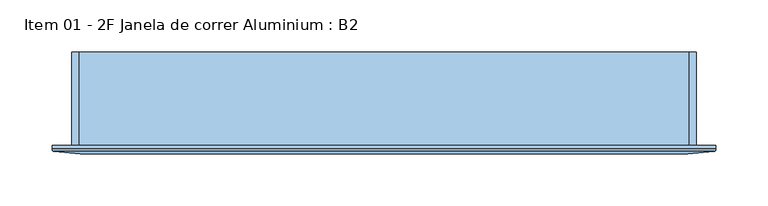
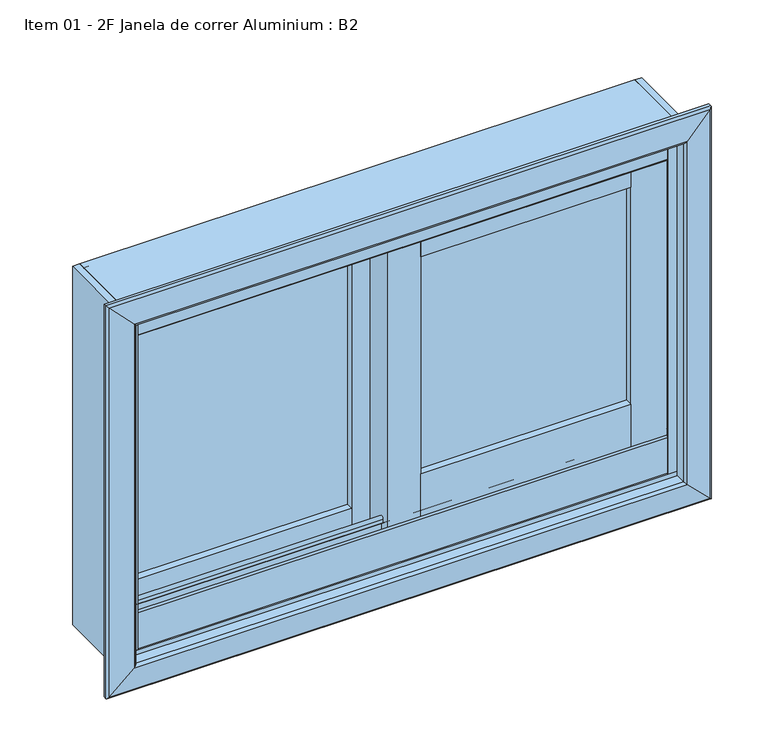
"""IFC4 building model written with IfcOpenShell, lengths in millimetres: window geometry, Item 01 - 2F Janela de correr Aluminium : B2."""

from ifc_helpers import new_model, si_unit, frame, origin, place, context, project, spatial, polyline, circle_curve, ellipse_curve, outline, extrude, source, transform, mapped, element, save
from ifc_brep_helpers import plane_surface, cylinder_surface, revolved_surface, advanced_brep


def item_01_2f_janela_de_correr_aluminium_b2_8b62c7b2(model_context):
    return source(origin(), model_context, "Body", "SolidModel", [
        extrude(outline(polyline([(-27.3998339, -10.3), (-27.3998339, -14.3), (-254.750983, -14.3), (-254.750983, -10.3), (-27.3998339, -10.3)])), frame((0.0, 0.0, 857.0), z_axis=(0.0, 0.0, 1.0), x_axis=(1.0, 0.0, 0.0)), (0.0, 0.0, 1.0), 280.5),
        extrude(outline(polyline([(27.2998339, -45.9), (27.2998339, -41.9), (248.868646, -41.9), (248.868646, -45.9), (27.2998339, -45.9)])), frame((0.0, 0.0, 895.5), z_axis=(0.0, 0.0, 1.0), x_axis=(1.0, 0.0, 0.0)), (0.0, 0.0, 1.0), 242.0),
        extrude(outline(polyline([(248.868646, -33.9), (248.868646, -53.9), (27.2998339, -53.9), (27.2998339, -33.9), (248.868646, -33.9)])), frame((0.0, 0.0, 847.9996573), z_axis=(0.0, 0.0, 1.0), x_axis=(1.0, 0.0, 0.0)), (0.0, 0.0, 1.0), 47.5003427),
        extrude(outline(polyline([(248.868646, -33.9), (248.868646, -53.9), (27.2998339, -53.9), (27.2998339, -33.9), (248.868646, -33.9)])), frame((0.0, 0.0, 1137.4996573), z_axis=(0.0, 0.0, 1.0), x_axis=(1.0, 0.0, 0.0)), (0.0, 0.0, 1.0), 34.5),
        extrude(outline(polyline([(-27.3998339, -2.3), (-27.3998339, -22.3), (-254.750983, -22.3), (-254.750983, -2.3), (-27.3998339, -2.3)])), frame((0.0, 0.0, 821.0), z_axis=(0.0, 0.0, 1.0), x_axis=(1.0, 0.0, 0.0)), (0.0, 0.0, 1.0), 36.0),
        extrude(outline(polyline([(-27.3998339, -2.3), (-27.3998339, -22.3), (-254.750983, -22.3), (-254.750983, -2.3), (-27.3998339, -2.3)])), frame((0.0, 0.0, 1137.5), z_axis=(0.0, 0.0, 1.0), x_axis=(1.0, 0.0, 0.0)), (0.0, 0.0, 1.0), 34.5),
        extrude(outline(polyline([(-254.750983, -22.3), (-293.0, -22.3), (-293.0, -2.3), (-254.750983, -2.3), (-254.750983, -22.3)])), frame((0.0, 0.0, 821.0), z_axis=(0.0, 0.0, 1.0), x_axis=(1.0, 0.0, 0.0)), (0.0, 0.0, 1.0), 351.0),
        extrude(outline(polyline([(-27.3998339, -22.3), (-27.3998339, -2.3), (7.6001661, -2.3), (7.6001661, -33.9), (27.2998339, -33.9), (27.2998339, -53.9), (-7.6001661, -53.9), (-7.6001661, -22.3), (-27.3998339, -22.3)])), frame((0.0, 0.0, 821.0), z_axis=(0.0, 0.0, 1.0), x_axis=(1.0, 0.0, 0.0)), (0.0, 0.0, 1.0), 351.0),
        extrude(outline(polyline([(293.0, -53.9), (248.868646, -53.9), (248.868646, -33.9), (293.0, -33.9), (293.0, -53.9)])), frame((0.0, 0.0, 821.0), z_axis=(0.0, 0.0, 1.0), x_axis=(1.0, 0.0, 0.0)), (0.0, 0.0, 1.0), 351.0),
        advanced_brep(
        [(-292.5998339, 8.5620965, 810.2470077), (-292.5998339, 8.5620965, 801.4000436), (-292.5998339, 13.600001, 801.4000436), (-292.5998339, 13.600001, 807.4000364), (-292.5998339, 14.9999993, 807.4000364), (-292.5998339, 15.0, 800.0), (-292.5998339, -75.0, 800.0), (-292.5998339, -75.0, 807.4000364), (-292.5998339, -73.6000017, 807.4000364), (-292.5998339, -73.6000017, 801.3999983), (-292.5998339, -68.6000077, 801.3999983), (-292.5998339, -68.6000077, 815.5000406), (-292.5998339, -66.9001002, 815.5000406), (-292.5998339, -66.9002002, 855.4959852), (-292.5998339, -63.9002108, 855.4999745), (-292.5998339, -63.9002039, 852.9999952), (-292.5998339, -65.5001025, 852.0762974), (-292.5998339, -65.4999102, 840.5017467), (-292.5998339, -64.5522917, 839.4937615), (-292.5998339, -42.5000392, 838.337999), (-292.5998339, -42.5000392, 852.496362), (-292.5998339, -44.7000484, 852.496362), (-292.5998339, -44.7000484, 848.6999865), (-292.5998339, -46.1007067, 848.6999865), (-292.5998339, -46.1007067, 852.4947997), (-292.5998339, -41.099933, 852.4947997), (-292.5998339, -41.099933, 838.2646991), (-292.5998339, -39.464205, 838.1789418), (-292.5998339, -35.731283, 834.861102), (-292.5998339, -32.3590937, 815.7367048), (-292.5998339, -29.9346709, 813.5917613), (-292.5998339, -14.4999651, 812.7828298), (-292.5998339, -14.4999651, 825.4891381), (-292.5998339, -9.4999947, 825.4999956), (-292.5998339, -9.4999711, 821.7000191), (-292.5998339, -10.8999694, 821.7000191), (-292.5998339, -10.8999694, 825.4963945), (-292.5998339, -13.0999825, 825.4963945), (-292.5998339, -13.0999825, 812.7095299), (-292.5998339, 7.2297593, 811.6448774), (292.5998339, 8.5620965, 810.2470077), (292.5998339, 8.5620965, 801.4000436), (292.5998339, 13.600001, 801.4000436), (292.5998339, 13.600001, 807.4000364), (292.5998339, 14.9999993, 807.4000364), (292.5998339, 15.0, 800.0), (292.5998339, -75.0, 800.0), (292.5998339, -75.0, 807.4000364), (292.5998339, -73.6000017, 807.4000364), (292.5998339, -73.6000017, 801.3999983), (292.5998339, -68.6000077, 801.3999983), (292.5998339, -68.6000077, 815.5000406), (292.5998339, -66.9001002, 815.5000406), (292.5998339, -66.9002002, 855.4959852), (292.5998339, -63.9002108, 855.4999745), (292.5998339, -63.9002039, 852.9999952), (292.5998339, -65.5001025, 852.0762974), (292.5998339, -65.4999102, 840.5017467), (292.5998339, -64.5522917, 839.4937615), (292.5998339, -42.5000392, 838.337999), (292.5998339, -42.5000392, 852.496362), (292.5998339, -44.7000484, 852.496362), (292.5998339, -44.7000484, 848.6999865), (292.5998339, -46.1007067, 848.6999865), (292.5998339, -46.1007067, 852.4947997), (292.5998339, -41.099933, 852.4947997), (292.5998339, -41.099933, 838.2646991), (292.5998339, -39.464205, 838.1789418), (292.5998339, -35.731283, 834.861102), (292.5998339, -32.3590937, 815.7367048), (292.5998339, -29.9346709, 813.5917613), (292.5998339, -14.4999651, 812.7828298), (292.5998339, -14.4999651, 825.4891381), (292.5998339, -9.4999947, 825.4999956), (292.5998339, -9.4999711, 821.7000191), (292.5998339, -10.8999694, 821.7000191), (292.5998339, -10.8999694, 825.4963945), (292.5998339, -13.0999825, 825.4963945), (292.5998339, -13.0999825, 812.7095299), (292.5998339, 7.2297593, 811.6448774)],
        [
            (0, 1),
            (1, 2),
            (2, 3),
            (3, 4),
            (4, 5),
            (5, 6),
            (6, 7),
            (7, 8),
            (8, 9),
            (9, 10),
            (10, 11),
            (11, 12),
            (12, 13),
            (13, 14, circle_curve(frame((-292.5998339, -65.4002082, 855.4999743), z_axis=(-1.0, 0.0, 0.0), x_axis=(0.0, 0.0, 1.0)), 1.4999974)),
            (14, 15),
            (15, 16),
            (16, 17),
            (17, 18, circle_curve(frame((-292.5998339, -64.4999552, 840.4923898), z_axis=(1.0, 0.0, 0.0), x_axis=(0.0, 0.0, 1.0)), 0.9999988)),
            (18, 19),
            (19, 20),
            (20, 21, circle_curve(frame((-292.5998339, -43.6000438, 852.496362), z_axis=(1.0, 0.0, 0.0), x_axis=(0.0, 0.0, 1.0)), 1.1000046)),
            (21, 22),
            (22, 23, circle_curve(frame((-292.5998339, -45.4003775, 848.6999865), z_axis=(-1.0, 0.0, 0.0), x_axis=(0.0, 0.0, 1.0)), 0.7003292)),
            (23, 24),
            (24, 25, circle_curve(frame((-292.5998339, -43.6003199, 852.4947997), z_axis=(-1.0, 0.0, 0.0), x_axis=(0.0, 0.0, 1.0)), 2.5003869)),
            (25, 26),
            (26, 27),
            (27, 28, circle_curve(frame((-292.5998339, -39.6736275, 834.1844326), z_axis=(-1.0, 0.0, 0.0), x_axis=(0.0, 0.0, 1.0)), 3.9999952)),
            (28, 29),
            (29, 30, circle_curve(frame((-292.5998339, -29.7985976, 816.188195), z_axis=(1.0, 0.0, 0.0), x_axis=(0.0, 0.0, 1.0)), 2.5999969)),
            (30, 31),
            (31, 32),
            (32, 33, circle_curve(frame((-292.5998339, -11.9999917, 825.4999955), z_axis=(-1.0, 0.0, 0.0), x_axis=(0.0, 0.0, 1.0)), 2.499997)),
            (33, 34),
            (34, 35, circle_curve(frame((-292.5998339, -10.1999703, 821.7000191), z_axis=(-1.0, 0.0, 0.0), x_axis=(0.0, 0.0, 1.0)), 0.6999992)),
            (35, 36),
            (36, 37, circle_curve(frame((-292.5998339, -11.9999759, 825.4963945), z_axis=(1.0, 0.0, 0.0), x_axis=(0.0, 0.0, 1.0)), 1.1000065)),
            (37, 38),
            (38, 39),
            (39, 0, circle_curve(frame((-292.5998339, 7.1626152, 810.2470077), z_axis=(-1.0, 0.0, 0.0), x_axis=(0.0, 0.0, 1.0)), 1.3994814)),
            (0, 40),
            (40, 41),
            (41, 1),
            (41, 42),
            (42, 2),
            (42, 43),
            (43, 3),
            (43, 44),
            (44, 4),
            (44, 45),
            (45, 5),
            (45, 46),
            (46, 6),
            (46, 47),
            (47, 7),
            (47, 48),
            (48, 8),
            (48, 49),
            (49, 9),
            (49, 50),
            (50, 10),
            (50, 51),
            (51, 11),
            (51, 52),
            (52, 12),
            (52, 53),
            (53, 13),
            (53, 54, circle_curve(frame((292.5998339, -65.4002082, 855.4999743), z_axis=(-1.0, 0.0, 0.0), x_axis=(0.0, 0.0, 1.0)), 1.4999974)),
            (54, 14),
            (54, 55),
            (55, 15),
            (55, 56),
            (56, 16),
            (56, 57),
            (57, 17),
            (57, 58, circle_curve(frame((292.5998339, -64.4999552, 840.4923898), z_axis=(1.0, 0.0, 0.0), x_axis=(0.0, 0.0, 1.0)), 0.9999988)),
            (58, 18),
            (58, 59),
            (59, 19),
            (59, 60),
            (60, 20),
            (60, 61, circle_curve(frame((292.5998339, -43.6000438, 852.496362), z_axis=(1.0, 0.0, 0.0), x_axis=(0.0, 0.0, 1.0)), 1.1000046)),
            (61, 21),
            (61, 62),
            (62, 22),
            (62, 63, circle_curve(frame((292.5998339, -45.4003775, 848.6999865), z_axis=(-1.0, 0.0, 0.0), x_axis=(0.0, 0.0, 1.0)), 0.7003292)),
            (63, 23),
            (63, 64),
            (64, 24),
            (64, 65, circle_curve(frame((292.5998339, -43.6003199, 852.4947997), z_axis=(-1.0, 0.0, 0.0), x_axis=(0.0, 0.0, 1.0)), 2.5003869)),
            (65, 25),
            (65, 66),
            (66, 26),
            (66, 67),
            (67, 27),
            (67, 68, circle_curve(frame((292.5998339, -39.6736275, 834.1844326), z_axis=(-1.0, 0.0, 0.0), x_axis=(0.0, 0.0, 1.0)), 3.9999952)),
            (68, 28),
            (68, 69),
            (69, 29),
            (69, 70, circle_curve(frame((292.5998339, -29.7985976, 816.188195), z_axis=(1.0, 0.0, 0.0), x_axis=(0.0, 0.0, 1.0)), 2.5999969)),
            (70, 30),
            (70, 71),
            (71, 31),
            (71, 72),
            (72, 32),
            (72, 73, circle_curve(frame((292.5998339, -11.9999917, 825.4999955), z_axis=(-1.0, 0.0, 0.0), x_axis=(0.0, 0.0, 1.0)), 2.499997)),
            (73, 33),
            (73, 74),
            (74, 34),
            (74, 75, circle_curve(frame((292.5998339, -10.1999703, 821.7000191), z_axis=(-1.0, 0.0, 0.0), x_axis=(0.0, 0.0, 1.0)), 0.6999992)),
            (75, 35),
            (75, 76),
            (76, 36),
            (76, 77, circle_curve(frame((292.5998339, -11.9999759, 825.4963945), z_axis=(1.0, 0.0, 0.0), x_axis=(0.0, 0.0, 1.0)), 1.1000065)),
            (77, 37),
            (77, 78),
            (78, 38),
            (78, 79),
            (79, 39),
            (79, 40, circle_curve(frame((292.5998339, 7.1626152, 810.2470077), z_axis=(-1.0, 0.0, 0.0), x_axis=(0.0, 0.0, 1.0)), 1.3994814)),
        ],
        [
            plane_surface(frame((-292.5998339, -75.0, 1200.0), z_axis=(-1.0, 0.0, 0.0), x_axis=(0.0, -1.0, 0.0))),
            plane_surface(frame((-292.5998339, 8.5620965, 810.2470077), z_axis=(0.0, 1.0, 0.0), x_axis=(1.0, 0.0, 0.0))),
            plane_surface(frame((-292.5998339, 8.5620965, 801.4000436), z_axis=(0.0, 0.0, 1.0), x_axis=(1.0, 0.0, 0.0))),
            plane_surface(frame((-292.5998339, 13.600001, 801.4000436), z_axis=(0.0, -1.0, 0.0), x_axis=(1.0, 0.0, 0.0))),
            plane_surface(frame((-292.5998339, 13.600001, 807.4000364), z_axis=(0.0, 0.0, 1.0), x_axis=(1.0, 0.0, 0.0))),
            plane_surface(frame((-292.5998339, 14.9999993, 807.4000364), z_axis=(0.0, 0.999999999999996, 9.01305508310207e-08), x_axis=(1.0, 0.0, 0.0))),
            plane_surface(frame((-292.5998339, 15.0, 800.0), z_axis=(0.0, 0.0, -1.0), x_axis=(1.0, 0.0, 0.0))),
            plane_surface(frame((-292.5998339, -75.0, 800.0), z_axis=(0.0, -1.0, 0.0), x_axis=(1.0, 0.0, 0.0))),
            plane_surface(frame((-292.5998339, -75.0, 807.4000364), z_axis=(0.0, 0.0, 1.0), x_axis=(1.0, 0.0, 0.0))),
            plane_surface(frame((-292.5998339, -73.6000017, 807.4000364), z_axis=(0.0, 1.0, 0.0), x_axis=(1.0, 0.0, 0.0))),
            plane_surface(frame((-292.5998339, -73.6000017, 801.3999983), z_axis=(0.0, 0.0, 1.0), x_axis=(1.0, 0.0, 0.0))),
            plane_surface(frame((-292.5998339, -68.6000077, 801.3999983), z_axis=(0.0, -1.0, 0.0), x_axis=(1.0, 0.0, 0.0))),
            plane_surface(frame((-292.5998339, -68.6000077, 815.5000406), z_axis=(0.0, 0.0, 1.0), x_axis=(1.0, 0.0, 0.0))),
            plane_surface(frame((-292.5998339, -66.9001002, 815.5000406), z_axis=(0.0, -0.999999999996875, -2.500000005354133e-06), x_axis=(1.0, 0.0, 0.0))),
            cylinder_surface(frame((-292.5998339, -65.4002082, 855.4999743), z_axis=(-1.0, 0.0, 0.0), x_axis=(0.0, 0.0, 1.0)), 1.4999974),
            plane_surface(frame((-292.5998339, -63.9002039, 855.4999927), z_axis=(0.0, 1.0, 0.0), x_axis=(1.0, 0.0, 0.0))),
            plane_surface(frame((-292.5998339, -63.9002039, 852.9999952), z_axis=(0.0, 0.4999983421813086, -0.8660263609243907), x_axis=(1.0, 0.0, 0.0))),
            plane_surface(frame((-292.5998339, -65.5001025, 852.0762974), z_axis=(0.0, 0.9999999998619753, 1.661473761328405e-05), x_axis=(1.0, 0.0, 0.0))),
            revolved_surface(polyline([(292.5998339, -64.4999552, 841.4923885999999), (-292.5998339, -64.4999552, 841.4923885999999)]), (-292.5998339, -64.4999552, 840.4923898), (1.0, 0.0, 0.0)),
            plane_surface(frame((-292.5998339, -64.5523119, 839.493712), z_axis=(0.0, 0.05233606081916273, 0.998629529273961), x_axis=(1.0, 0.0, 0.0))),
            plane_surface(frame((-292.5998339, -42.5000392, 838.337999), z_axis=(0.0, -1.0, 0.0), x_axis=(1.0, 0.0, 0.0))),
            revolved_surface(polyline([(292.5998339, -43.6000438, 853.5963666), (-292.5998339, -43.6000438, 853.5963666)]), (-292.5998339, -43.6000438, 852.496362), (1.0, 0.0, 0.0)),
            plane_surface(frame((-292.5998339, -44.7000484, 852.496362), z_axis=(0.0, 1.0, 0.0), x_axis=(1.0, 0.0, 0.0))),
            cylinder_surface(frame((-292.5998339, -45.4003775, 848.6999865), z_axis=(-1.0, 0.0, 0.0), x_axis=(0.0, 0.0, 1.0)), 0.7003292),
            plane_surface(frame((-292.5998339, -46.1007067, 848.6999865), z_axis=(0.0, -1.0, 0.0), x_axis=(1.0, 0.0, 0.0))),
            cylinder_surface(frame((-292.5998339, -43.6003199, 852.4947997), z_axis=(-1.0, 0.0, 0.0), x_axis=(0.0, 0.0, 1.0)), 2.5003869),
            plane_surface(frame((-292.5998339, -41.099933, 852.4947997), z_axis=(0.0, 1.0, 0.0), x_axis=(1.0, 0.0, 0.0))),
            plane_surface(frame((-292.5998339, -41.099933, 838.2646991), z_axis=(0.0, 0.05235569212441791, 0.998628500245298), x_axis=(1.0, 0.0, 0.0))),
            cylinder_surface(frame((-292.5998339, -39.6736275, 834.1844326), z_axis=(-1.0, 0.0, 0.0), x_axis=(0.0, 0.0, 1.0)), 3.9999952),
            plane_surface(frame((-292.5998339, -35.731283, 834.861102), z_axis=(0.0, 0.9848073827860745, 0.1736502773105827), x_axis=(1.0, 0.0, 0.0))),
            revolved_surface(polyline([(292.5998339, -29.7985976, 818.7881918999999), (-292.5998339, -29.7985976, 818.7881918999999)]), (-292.5998339, -29.7985976, 816.188195), (1.0, 0.0, 0.0)),
            plane_surface(frame((-292.5998339, -29.9346464, 813.5917288), z_axis=(0.0, 0.052336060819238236, 0.9986295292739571), x_axis=(1.0, 0.0, 0.0))),
            plane_surface(frame((-292.5998339, -14.4999651, 812.7828298), z_axis=(0.0, -1.0, 0.0), x_axis=(1.0, 0.0, 0.0))),
            cylinder_surface(frame((-292.5998339, -11.9999917, 825.4999955), z_axis=(-1.0, 0.0, 0.0), x_axis=(0.0, 0.0, 1.0)), 2.499997),
            plane_surface(frame((-292.5998339, -9.4999711, 825.5000145), z_axis=(0.0, 1.0, 0.0), x_axis=(1.0, 0.0, 0.0))),
            cylinder_surface(frame((-292.5998339, -10.1999703, 821.7000191), z_axis=(-1.0, 0.0, 0.0), x_axis=(0.0, 0.0, 1.0)), 0.6999992),
            plane_surface(frame((-292.5998339, -10.8999694, 821.7000191), z_axis=(0.0, -1.0, 0.0), x_axis=(1.0, 0.0, 0.0))),
            revolved_surface(polyline([(292.5998339, -11.9999759, 826.5964009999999), (-292.5998339, -11.9999759, 826.5964009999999)]), (-292.5998339, -11.9999759, 825.4963945), (1.0, 0.0, 0.0)),
            plane_surface(frame((-292.5998339, -13.0999825, 825.4963945), z_axis=(0.0, 1.0, 0.0), x_axis=(1.0, 0.0, 0.0))),
            plane_surface(frame((-292.5998339, -13.0999825, 812.7095299), z_axis=(0.0, 0.052297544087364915, 0.9986315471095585), x_axis=(1.0, 0.0, 0.0))),
            cylinder_surface(frame((-292.5998339, 7.1626152, 810.2470077), z_axis=(-1.0, 0.0, 0.0), x_axis=(0.0, 0.0, 1.0)), 1.3994814),
            plane_surface(frame((292.5998339, -75.0, 1200.0), z_axis=(1.0, 0.0, 0.0), x_axis=(0.0, -1.0, 0.0))),
        ],
        [
            (0, [[1, 2, 3, 4, 5, 6, 7, 8, 9, 10, 11, 12, 13, 14, 15, 16, 17, 18, 19, 20, 21, 22, 23, 24, 25, 26, 27, 28, 29, 30, 31, 32, 33, 34, 35, 36, 37, 38, 39, 40]]),
            (1, [[-1, 41, 42, 43]]),
            (2, [[-2, -43, 44, 45]]),
            (3, [[-3, -45, 46, 47]]),
            (4, [[-4, -47, 48, 49]]),
            (5, [[-5, -49, 50, 51]]),
            (6, [[-6, -51, 52, 53]]),
            (7, [[-7, -53, 54, 55]]),
            (8, [[-8, -55, 56, 57]]),
            (9, [[-9, -57, 58, 59]]),
            (10, [[-10, -59, 60, 61]]),
            (11, [[-11, -61, 62, 63]]),
            (12, [[-12, -63, 64, 65]]),
            (13, [[-13, -65, 66, 67]]),
            (14, [[-14, -67, 68, 69]]),
            (15, [[-15, -69, 70, 71]]),
            (16, [[-16, -71, 72, 73]]),
            (17, [[-17, -73, 74, 75]]),
            (18, [[-18, -75, 76, 77]]),
            (19, [[-19, -77, 78, 79]]),
            (20, [[-20, -79, 80, 81]]),
            (21, [[-21, -81, 82, 83]]),
            (22, [[-22, -83, 84, 85]]),
            (23, [[-23, -85, 86, 87]]),
            (24, [[-24, -87, 88, 89]]),
            (25, [[-25, -89, 90, 91]]),
            (26, [[-26, -91, 92, 93]]),
            (27, [[-27, -93, 94, 95]]),
            (28, [[-28, -95, 96, 97]]),
            (29, [[-29, -97, 98, 99]]),
            (30, [[-30, -99, 100, 101]]),
            (31, [[-31, -101, 102, 103]]),
            (32, [[-32, -103, 104, 105]]),
            (33, [[-33, -105, 106, 107]]),
            (34, [[-34, -107, 108, 109]]),
            (35, [[-35, -109, 110, 111]]),
            (36, [[-36, -111, 112, 113]]),
            (37, [[-37, -113, 114, 115]]),
            (38, [[-38, -115, 116, 117]]),
            (39, [[-39, -117, 118, 119]]),
            (40, [[-40, -119, 120, -41]]),
            (41, [[-120, -118, -116, -114, -112, -110, -108, -106, -104, -102, -100, -98, -96, -94, -92, -90, -88, -86, -84, -82, -80, -78, -76, -74, -72, -70, -68, -66, -64, -62, -60, -58, -56, -54, -52, -50, -48, -46, -44, -42]]),
        ],
    ),
        advanced_brep(
        [(-292.5998339, -66.8990741, 1165.5), (-292.5998339, -66.8990741, 1184.5), (-292.5998339, -68.5994745, 1184.5), (-292.5998339, -68.5994745, 1198.6), (-292.5998339, -73.5994745, 1198.6), (-292.5998339, -73.5994745, 1192.6), (-292.5998339, -74.9994395, 1192.6), (-292.5998339, -74.9994395, 1200.0), (-292.5998339, 15.0005605, 1200.0), (-292.5998339, 15.0005605, 1192.6), (-292.5998339, 13.6005455, 1192.6), (-292.5998339, 13.6005455, 1198.6), (-292.5998339, 8.6005455, 1198.6), (-292.5998339, 8.6005455, 1184.5), (-292.5998339, 6.9005605, 1184.5), (-292.5998339, 6.9005605, 1161.0), (-292.5998339, 5.5005605, 1160.0834849), (-292.5998339, 5.5005605, 1184.5), (-292.5998339, -13.0994395, 1184.5), (-292.5998339, -13.0994395, 1166.4999475), (-292.5998339, -10.8994395, 1166.4999475), (-292.5998339, -10.8994395, 1170.298754), (-292.5998339, -9.4986209, 1170.298754), (-292.5998339, -9.4986209, 1166.4999475), (-292.5998339, -14.5002581, 1166.4999475), (-292.5998339, -14.5002581, 1184.5), (-292.5998339, -41.0986209, 1184.5), (-292.5998339, -41.0986209, 1166.499981), (-292.5998339, -46.1002581, 1166.499981), (-292.5998339, -46.1002581, 1170.2997289), (-292.5998339, -44.6994395, 1170.2997289), (-292.5998339, -44.6994395, 1166.499981), (-292.5998339, -42.4994395, 1166.499981), (-292.5998339, -42.4994395, 1184.5), (-292.5998339, -65.4994049, 1184.5), (-292.5998339, -65.4994049, 1168.9237013), (-292.5998339, -63.8998049, 1168.0002013), (-292.5998339, -63.8998049, 1165.5), (292.5998339, -66.8990741, 1165.5), (292.5998339, -63.8998049, 1165.5), (292.5998339, -63.8998049, 1168.0002013), (292.5998339, -65.4994049, 1168.9237013), (292.5998339, -65.4994049, 1184.5), (292.5998339, -42.4994395, 1184.5), (292.5998339, -42.4994395, 1166.499981), (292.5998339, -44.6994395, 1166.499981), (292.5998339, -44.6994395, 1170.2997289), (292.5998339, -46.1002581, 1170.2997289), (292.5998339, -46.1002581, 1166.499981), (292.5998339, -41.0986209, 1166.499981), (292.5998339, -41.0986209, 1184.5), (292.5998339, -14.5002581, 1184.5), (292.5998339, -14.5002581, 1166.4999475), (292.5998339, -9.4986209, 1166.4999475), (292.5998339, -9.4986209, 1170.298754), (292.5998339, -10.8994395, 1170.298754), (292.5998339, -10.8994395, 1166.4999475), (292.5998339, -13.0994395, 1166.4999475), (292.5998339, -13.0994395, 1184.5), (292.5998339, 5.5005605, 1184.5), (292.5998339, 5.5005605, 1160.0834849), (292.5998339, 6.9005605, 1161.0), (292.5998339, 6.9005605, 1184.5), (292.5998339, 8.6005455, 1184.5), (292.5998339, 8.6005455, 1198.6), (292.5998339, 13.6005455, 1198.6), (292.5998339, 13.6005455, 1192.6), (292.5998339, 15.0005605, 1192.6), (292.5998339, 15.0005605, 1200.0), (292.5998339, -74.9994395, 1200.0), (292.5998339, -74.9994395, 1192.6), (292.5998339, -73.5994745, 1192.6), (292.5998339, -73.5994745, 1198.6), (292.5998339, -68.5994745, 1198.6), (292.5998339, -68.5994745, 1184.5), (292.5998339, -66.8990741, 1184.5)],
        [
            (0, 1),
            (1, 2),
            (2, 3),
            (3, 4),
            (4, 5),
            (5, 6),
            (6, 7),
            (7, 8),
            (8, 9),
            (9, 10),
            (10, 11),
            (11, 12),
            (12, 13),
            (13, 14),
            (14, 15),
            (15, 16, circle_curve(frame((-292.5998339, 5.9005605, 1161.0), z_axis=(-1.0, 0.0, 0.0), x_axis=(0.0, 0.0, 1.0)), 1.0)),
            (16, 17),
            (17, 18),
            (18, 19),
            (19, 20, circle_curve(frame((-292.5998339, -11.9994395, 1166.4999475), z_axis=(1.0, 0.0, 0.0), x_axis=(0.0, 0.0, 1.0)), 1.1)),
            (20, 21),
            (21, 22, circle_curve(frame((-292.5998339, -10.1990302, 1170.298754), z_axis=(-1.0, 0.0, 0.0), x_axis=(0.0, 0.0, 1.0)), 0.7004093)),
            (22, 23),
            (23, 24, circle_curve(frame((-292.5998339, -11.9994395, 1166.4999475), z_axis=(-1.0, 0.0, 0.0), x_axis=(0.0, 0.0, 1.0)), 2.5008186)),
            (24, 25),
            (25, 26),
            (26, 27),
            (27, 28, circle_curve(frame((-292.5998339, -43.5994395, 1166.499981), z_axis=(-1.0, 0.0, 0.0), x_axis=(0.0, 0.0, 1.0)), 2.5008186)),
            (28, 29),
            (29, 30, circle_curve(frame((-292.5998339, -45.3998488, 1170.2997289), z_axis=(-1.0, 0.0, 0.0), x_axis=(0.0, 0.0, 1.0)), 0.7004093)),
            (30, 31),
            (31, 32, circle_curve(frame((-292.5998339, -43.5994395, 1166.499981), z_axis=(1.0, 0.0, 0.0), x_axis=(0.0, 0.0, 1.0)), 1.1)),
            (32, 33),
            (33, 34),
            (34, 35),
            (35, 36),
            (36, 37),
            (37, 0, circle_curve(frame((-292.5998339, -65.3994395, 1165.5), z_axis=(-1.0, 0.0, 0.0), x_axis=(0.0, 0.0, 1.0)), 1.4996346)),
            (38, 39, circle_curve(frame((292.5998339, -65.3994395, 1165.5), z_axis=(1.0, 0.0, 0.0), x_axis=(0.0, 0.0, 1.0)), 1.4996346)),
            (39, 40),
            (40, 41),
            (41, 42),
            (42, 43),
            (43, 44),
            (44, 45, circle_curve(frame((292.5998339, -43.5994395, 1166.499981), z_axis=(-1.0, 0.0, 0.0), x_axis=(0.0, 0.0, 1.0)), 1.1)),
            (45, 46),
            (46, 47, circle_curve(frame((292.5998339, -45.3998488, 1170.2997289), z_axis=(1.0, 0.0, 0.0), x_axis=(0.0, 0.0, 1.0)), 0.7004093)),
            (47, 48),
            (48, 49, circle_curve(frame((292.5998339, -43.5994395, 1166.499981), z_axis=(1.0, 0.0, 0.0), x_axis=(0.0, 0.0, 1.0)), 2.5008186)),
            (49, 50),
            (50, 51),
            (51, 52),
            (52, 53, circle_curve(frame((292.5998339, -11.9994395, 1166.4999475), z_axis=(1.0, 0.0, 0.0), x_axis=(0.0, 0.0, 1.0)), 2.5008186)),
            (53, 54),
            (54, 55, circle_curve(frame((292.5998339, -10.1990302, 1170.298754), z_axis=(1.0, 0.0, 0.0), x_axis=(0.0, 0.0, 1.0)), 0.7004093)),
            (55, 56),
            (56, 57, circle_curve(frame((292.5998339, -11.9994395, 1166.4999475), z_axis=(-1.0, 0.0, 0.0), x_axis=(0.0, 0.0, 1.0)), 1.1)),
            (57, 58),
            (58, 59),
            (59, 60),
            (60, 61, circle_curve(frame((292.5998339, 5.9005605, 1161.0), z_axis=(1.0, 0.0, 0.0), x_axis=(0.0, 0.0, 1.0)), 1.0)),
            (61, 62),
            (62, 63),
            (63, 64),
            (64, 65),
            (65, 66),
            (66, 67),
            (67, 68),
            (68, 69),
            (69, 70),
            (70, 71),
            (71, 72),
            (72, 73),
            (73, 74),
            (74, 75),
            (75, 38),
            (0, 38),
            (75, 1),
            (74, 2),
            (73, 3),
            (72, 4),
            (71, 5),
            (70, 6),
            (69, 7),
            (68, 8),
            (67, 9),
            (66, 10),
            (65, 11),
            (64, 12),
            (63, 13),
            (62, 14),
            (61, 15),
            (60, 16),
            (59, 17),
            (58, 18),
            (57, 19),
            (56, 20),
            (55, 21),
            (54, 22),
            (53, 23),
            (52, 24),
            (51, 25),
            (50, 26),
            (49, 27),
            (48, 28),
            (47, 29),
            (46, 30),
            (45, 31),
            (44, 32),
            (43, 33),
            (42, 34),
            (41, 35),
            (40, 36),
            (39, 37),
        ],
        [
            plane_surface(frame((-292.5998339, -75.0, 1200.0), z_axis=(-1.0, 0.0, 0.0), x_axis=(0.0, -1.0, 0.0))),
            plane_surface(frame((292.5998339, -75.0, 1200.0), z_axis=(1.0, 0.0, 0.0), x_axis=(0.0, -1.0, 0.0))),
            plane_surface(frame((-292.5998339, -66.8990741, 1165.5), z_axis=(0.0, -1.0, 0.0), x_axis=(1.0, 0.0, 0.0))),
            plane_surface(frame((-292.5998339, -66.8990741, 1184.5), z_axis=(0.0, 0.0, -1.0), x_axis=(1.0, 0.0, 0.0))),
            plane_surface(frame((-292.5998339, -68.5994745, 1184.5), z_axis=(0.0, -1.0, 0.0), x_axis=(1.0, 0.0, 0.0))),
            plane_surface(frame((-292.5998339, -68.5994745, 1198.6), z_axis=(0.0, 0.0, -1.0), x_axis=(1.0, 0.0, 0.0))),
            plane_surface(frame((-292.5998339, -73.5994745, 1198.6), z_axis=(0.0, 1.0, 0.0), x_axis=(1.0, 0.0, 0.0))),
            plane_surface(frame((-292.5998339, -73.5994745, 1192.6), z_axis=(0.0, 0.0, -1.0), x_axis=(1.0, 0.0, 0.0))),
            plane_surface(frame((-292.5998339, -74.9994395, 1192.6), z_axis=(0.0, -1.0, 0.0), x_axis=(1.0, 0.0, 0.0))),
            plane_surface(frame((-292.5998339, -74.9994395, 1200.0), z_axis=(0.0, 0.0, 1.0), x_axis=(1.0, 0.0, 0.0))),
            plane_surface(frame((-292.5998339, 15.0005605, 1200.0), z_axis=(0.0, 1.0, 0.0), x_axis=(1.0, 0.0, 0.0))),
            plane_surface(frame((-292.5998339, 15.0005605, 1192.6), z_axis=(0.0, 0.0, -1.0), x_axis=(1.0, 0.0, 0.0))),
            plane_surface(frame((-292.5998339, 13.6005455, 1192.6), z_axis=(0.0, -1.0, 0.0), x_axis=(1.0, 0.0, 0.0))),
            plane_surface(frame((-292.5998339, 13.6005455, 1198.6), z_axis=(0.0, 0.0, -1.0), x_axis=(1.0, 0.0, 0.0))),
            plane_surface(frame((-292.5998339, 8.6005455, 1198.6), z_axis=(0.0, 1.0, 0.0), x_axis=(1.0, 0.0, 0.0))),
            plane_surface(frame((-292.5998339, 8.6005455, 1184.5), z_axis=(0.0, 0.0, -1.0), x_axis=(1.0, 0.0, 0.0))),
            plane_surface(frame((-292.5998339, 6.9005605, 1184.5), z_axis=(0.0, 1.0, 0.0), x_axis=(1.0, 0.0, 0.0))),
            cylinder_surface(frame((-292.5998339, 5.9005605, 1161.0), z_axis=(-1.0, 0.0, 0.0), x_axis=(0.0, 0.0, 1.0)), 1.0),
            plane_surface(frame((-292.5998339, 5.5005605, 1160.0834849), z_axis=(0.0, -1.0, 0.0), x_axis=(1.0, 0.0, 0.0))),
            plane_surface(frame((-292.5998339, 5.5005605, 1184.5), z_axis=(0.0, 0.0, -1.0), x_axis=(1.0, 0.0, 0.0))),
            plane_surface(frame((-292.5998339, -13.0994395, 1184.5), z_axis=(0.0, 1.0, 0.0), x_axis=(1.0, 0.0, 0.0))),
            revolved_surface(polyline([(292.5998339, -11.9994395, 1167.5999474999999), (-292.5998339, -11.9994395, 1167.5999474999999)]), (-292.5998339, -11.9994395, 1166.4999475), (1.0, 0.0, 0.0)),
            plane_surface(frame((-292.5998339, -10.8994395, 1166.4999475), z_axis=(0.0, -1.0, 0.0), x_axis=(1.0, 0.0, 0.0))),
            cylinder_surface(frame((-292.5998339, -10.1990302, 1170.298754), z_axis=(-1.0, 0.0, 0.0), x_axis=(0.0, 0.0, 1.0)), 0.7004093),
            plane_surface(frame((-292.5998339, -9.4986209, 1170.298754), z_axis=(0.0, 1.0, 0.0), x_axis=(1.0, 0.0, 0.0))),
            cylinder_surface(frame((-292.5998339, -11.9994395, 1166.4999475), z_axis=(-1.0, 0.0, 0.0), x_axis=(0.0, 0.0, 1.0)), 2.5008186),
            plane_surface(frame((-292.5998339, -14.5002581, 1166.4999475), z_axis=(0.0, -1.0, 0.0), x_axis=(1.0, 0.0, 0.0))),
            plane_surface(frame((-292.5998339, -14.5002581, 1184.5), z_axis=(0.0, 0.0, -1.0), x_axis=(1.0, 0.0, 0.0))),
            plane_surface(frame((-292.5998339, -41.0986209, 1184.5), z_axis=(0.0, 1.0, 0.0), x_axis=(1.0, 0.0, 0.0))),
            cylinder_surface(frame((-292.5998339, -43.5994395, 1166.499981), z_axis=(-1.0, 0.0, 0.0), x_axis=(0.0, 0.0, 1.0)), 2.5008186),
            plane_surface(frame((-292.5998339, -46.1002581, 1166.499981), z_axis=(0.0, -1.0, 0.0), x_axis=(1.0, 0.0, 0.0))),
            cylinder_surface(frame((-292.5998339, -45.3998488, 1170.2997289), z_axis=(-1.0, 0.0, 0.0), x_axis=(0.0, 0.0, 1.0)), 0.7004093),
            plane_surface(frame((-292.5998339, -44.6994395, 1170.2997289), z_axis=(0.0, 1.0, 0.0), x_axis=(1.0, 0.0, 0.0))),
            revolved_surface(polyline([(292.5998339, -43.5994395, 1167.5999809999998), (-292.5998339, -43.5994395, 1167.5999809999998)]), (-292.5998339, -43.5994395, 1166.499981), (1.0, 0.0, 0.0)),
            plane_surface(frame((-292.5998339, -42.4994395, 1166.499981), z_axis=(0.0, -1.0, 0.0), x_axis=(1.0, 0.0, 0.0))),
            plane_surface(frame((-292.5998339, -42.4994395, 1184.5), z_axis=(0.0, 0.0, -1.0), x_axis=(1.0, 0.0, 0.0))),
            plane_surface(frame((-292.5998339, -65.4994049, 1184.5), z_axis=(0.0, 1.0, 0.0), x_axis=(1.0, 0.0, 0.0))),
            plane_surface(frame((-292.5998339, -65.4994049, 1168.9237013), z_axis=(0.0, 0.49998802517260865, 0.8660323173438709), x_axis=(1.0, 0.0, 0.0))),
            plane_surface(frame((-292.5998339, -63.8998049, 1168.0002013), z_axis=(0.0, 1.0, 0.0), x_axis=(1.0, 0.0, 0.0))),
            cylinder_surface(frame((-292.5998339, -65.3994395, 1165.5), z_axis=(-1.0, 0.0, 0.0), x_axis=(0.0, 0.0, 1.0)), 1.4996346),
        ],
        [
            (0, [[1, 2, 3, 4, 5, 6, 7, 8, 9, 10, 11, 12, 13, 14, 15, 16, 17, 18, 19, 20, 21, 22, 23, 24, 25, 26, 27, 28, 29, 30, 31, 32, 33, 34, 35, 36, 37, 38]]),
            (1, [[39, 40, 41, 42, 43, 44, 45, 46, 47, 48, 49, 50, 51, 52, 53, 54, 55, 56, 57, 58, 59, 60, 61, 62, 63, 64, 65, 66, 67, 68, 69, 70, 71, 72, 73, 74, 75, 76]]),
            (2, [[-1, 77, -76, 78]]),
            (3, [[-2, -78, -75, 79]]),
            (4, [[-3, -79, -74, 80]]),
            (5, [[-4, -80, -73, 81]]),
            (6, [[-5, -81, -72, 82]]),
            (7, [[-6, -82, -71, 83]]),
            (8, [[-7, -83, -70, 84]]),
            (9, [[-8, -84, -69, 85]]),
            (10, [[-9, -85, -68, 86]]),
            (11, [[-10, -86, -67, 87]]),
            (12, [[-11, -87, -66, 88]]),
            (13, [[-12, -88, -65, 89]]),
            (14, [[-13, -89, -64, 90]]),
            (15, [[-14, -90, -63, 91]]),
            (16, [[-15, -91, -62, 92]]),
            (17, [[-16, -92, -61, 93]]),
            (18, [[-17, -93, -60, 94]]),
            (19, [[-18, -94, -59, 95]]),
            (20, [[-19, -95, -58, 96]]),
            (21, [[-20, -96, -57, 97]]),
            (22, [[-21, -97, -56, 98]]),
            (23, [[-22, -98, -55, 99]]),
            (24, [[-23, -99, -54, 100]]),
            (25, [[-24, -100, -53, 101]]),
            (26, [[-25, -101, -52, 102]]),
            (27, [[-26, -102, -51, 103]]),
            (28, [[-27, -103, -50, 104]]),
            (29, [[-28, -104, -49, 105]]),
            (30, [[-29, -105, -48, 106]]),
            (31, [[-30, -106, -47, 107]]),
            (32, [[-31, -107, -46, 108]]),
            (33, [[-32, -108, -45, 109]]),
            (34, [[-33, -109, -44, 110]]),
            (35, [[-34, -110, -43, 111]]),
            (36, [[-35, -111, -42, 112]]),
            (37, [[-36, -112, -41, 113]]),
            (38, [[-37, -113, -40, 114]]),
            (39, [[-38, -114, -39, -77]]),
        ],
    ),
        extrude(outline(polyline([(-300.0, -75.0), (-300.0, 15.0005605), (-292.5998339, 15.0005605), (-292.5998339, 8.6005605), (-279.5998339, 8.6005605), (-279.5998339, 7.2005603), (-292.5998339, 7.2005603), (-292.5998339, -67.1994395), (-279.5998339, -67.1994395), (-279.5998339, -68.5994395), (-292.5998339, -68.5994395), (-292.5998339, -75.0), (-300.0, -75.0)])), frame((0.0, 0.0, 800.0), z_axis=(0.0, 0.0, 1.0), x_axis=(1.0, 0.0, 0.0)), (0.0, 0.0, 1.0), 400.0),
        extrude(outline(polyline([(300.0, -75.0), (292.5998339, -75.0), (292.5998339, -68.5994395), (279.5998339, -68.5994395), (279.5998339, -67.1994395), (292.5998339, -67.1994395), (292.5998339, 7.2005603), (279.5998339, 7.2005603), (279.5998339, 8.6005605), (292.5998339, 8.6005605), (292.5998339, 15.0005605), (300.0, 15.0005605), (300.0, -75.0)])), frame((0.0, 0.0, 800.0), z_axis=(0.0, 0.0, 1.0), x_axis=(1.0, 0.0, 0.0)), (0.0, 0.0, 1.0), 400.0),
        advanced_brep(
        [(316.6179787, -80.8032791, 783.3820213), (291.6179953, -82.990685, 808.3820047), (-291.6179953, -82.990685, 808.3820047), (-316.6179787, -80.8032791, 783.3820213), (318.9000454, -78.301595, 781.0999546), (-318.9000454, -78.301595, 781.0999546), (318.9000454, -75.0, 781.0999546), (-318.9000454, -75.0, 781.0999546), (317.8000705, -78.312794, 782.1999295), (317.8000705, -75.0, 782.1999295), (-317.8000705, -75.0, 782.1999295), (-317.8000705, -78.312794, 782.1999295), (316.5220991, -79.7074657, 783.4779009), (-316.5220991, -79.7074657, 783.4779009), (291.5051608, -81.896355, 808.4948392), (-291.5051608, -81.896355, 808.4948392), (290.0000742, -80.5100572, 809.9999258), (-290.0000742, -80.5100572, 809.9999258), (290.0000742, -69.0002188, 809.9999258), (-290.0000742, -69.0002188, 809.9999258), (288.9000871, -80.5001999, 811.0999129), (288.9000871, -69.0002188, 811.0999129), (-288.9000871, -69.0002188, 811.0999129), (-288.9000871, -80.5001999, 811.0999129), (-291.6179953, -82.990685, 1191.6179953), (-316.6179787, -80.8032791, 1216.6179787), (-318.9000454, -78.301595, 1218.9000454), (-318.9000454, -75.0, 1218.9000454), (-317.8000705, -75.0, 1217.8000705), (-317.8000705, -78.312794, 1217.8000705), (-316.5220991, -79.7074657, 1216.5220991), (-291.5051608, -81.896355, 1191.5051608), (-290.0000742, -80.5100572, 1190.0000742), (-290.0000742, -69.0002188, 1190.0000742), (-288.9000871, -69.0002188, 1188.9000871), (-288.9000871, -80.5001999, 1188.9000871), (291.6179953, -82.990685, 1191.6179953), (316.6179787, -80.8032791, 1216.6179787), (318.9000454, -78.301595, 1218.9000454), (318.9000454, -75.0, 1218.9000454), (317.8000705, -75.0, 1217.8000705), (317.8000705, -78.312794, 1217.8000705), (316.5220991, -79.7074657, 1216.5220991), (291.5051608, -81.896355, 1191.5051608), (290.0000742, -80.5100572, 1190.0000742), (290.0000742, -69.0002188, 1190.0000742), (288.9000871, -69.0002188, 1188.9000871), (288.9000871, -80.5001999, 1188.9000871)],
        [
            (0, 1),
            (1, 2),
            (2, 3),
            (3, 0),
            (4, 0, ellipse_curve(frame((316.4000705, -78.312794, 783.5999295), z_axis=(-0.7071067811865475, 0.0, -0.7071067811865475), x_axis=(0.7071067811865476, 0.0, -0.7071067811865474)), 3.5355339, 2.5)),
            (3, 5, ellipse_curve(frame((-316.4000705, -78.312794, 783.5999295), z_axis=(0.7071067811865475, 0.0, -0.7071067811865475), x_axis=(0.7071067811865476, 0.0, 0.7071067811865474)), 3.5355339, 2.5)),
            (5, 4),
            (6, 4),
            (5, 7),
            (7, 6),
            (8, 9),
            (9, 10),
            (10, 11),
            (11, 8),
            (12, 8, ellipse_curve(frame((316.4000705, -78.312794, 783.5999295), z_axis=(0.7071067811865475, 0.0, 0.7071067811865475), x_axis=(-0.7071067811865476, 0.0, 0.7071067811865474)), 1.979899, 1.4)),
            (11, 13, ellipse_curve(frame((-316.4000705, -78.312794, 783.5999295), z_axis=(-0.7071067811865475, 0.0, 0.7071067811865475), x_axis=(-0.7071067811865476, 0.0, -0.7071067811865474)), 1.979899, 1.4)),
            (13, 12),
            (14, 12),
            (13, 15),
            (15, 14),
            (16, 14, ellipse_curve(frame((291.4000916, -80.5002514, 808.5999084), z_axis=(0.7071067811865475, 0.0, 0.7071067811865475), x_axis=(-0.7071067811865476, 0.0, 0.7071067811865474)), 1.9799721, 1.4000517)),
            (15, 17, ellipse_curve(frame((-291.4000916, -80.5002514, 808.5999084), z_axis=(-0.7071067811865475, 0.0, 0.7071067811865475), x_axis=(-0.7071067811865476, 0.0, -0.7071067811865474)), 1.9799721, 1.4000517)),
            (17, 16),
            (18, 16),
            (17, 19),
            (19, 18),
            (20, 21),
            (21, 22),
            (22, 23),
            (23, 20),
            (1, 20, ellipse_curve(frame((291.4000871, -80.5001999, 808.5999129), z_axis=(-0.7071067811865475, 0.0, -0.7071067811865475), x_axis=(0.7071067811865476, 0.0, -0.7071067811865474)), 3.5355339, 2.5)),
            (23, 2, ellipse_curve(frame((-291.4000871, -80.5001999, 808.5999129), z_axis=(0.7071067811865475, 0.0, -0.7071067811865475), x_axis=(0.7071067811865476, 0.0, 0.7071067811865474)), 3.5355339, 2.5)),
            (2, 24),
            (24, 25),
            (25, 3),
            (25, 26, ellipse_curve(frame((-316.4000705, -78.312794, 1216.4000705), z_axis=(-0.7071067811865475, 0.0, -0.7071067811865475), x_axis=(0.7071067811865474, 0.0, -0.7071067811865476)), 3.5355339, 2.5)),
            (26, 5),
            (26, 27),
            (27, 7),
            (10, 28),
            (28, 29),
            (29, 11),
            (29, 30, ellipse_curve(frame((-316.4000705, -78.312794, 1216.4000705), z_axis=(0.7071067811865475, 0.0, 0.7071067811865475), x_axis=(-0.7071067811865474, 0.0, 0.7071067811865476)), 1.979899, 1.4)),
            (30, 13),
            (30, 31),
            (31, 15),
            (31, 32, ellipse_curve(frame((-291.4000916, -80.5002514, 1191.4000916), z_axis=(0.7071067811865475, 0.0, 0.7071067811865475), x_axis=(-0.7071067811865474, 0.0, 0.7071067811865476)), 1.9799721, 1.4000517)),
            (32, 17),
            (32, 33),
            (33, 19),
            (22, 34),
            (34, 35),
            (35, 23),
            (35, 24, ellipse_curve(frame((-291.4000871, -80.5001999, 1191.4000871), z_axis=(-0.7071067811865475, 0.0, -0.7071067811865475), x_axis=(0.7071067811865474, 0.0, -0.7071067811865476)), 3.5355339, 2.5)),
            (24, 36),
            (36, 37),
            (37, 25),
            (37, 38, ellipse_curve(frame((316.4000705, -78.312794, 1216.4000705), z_axis=(-0.7071067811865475, 0.0, 0.7071067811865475), x_axis=(-0.7071067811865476, 0.0, -0.7071067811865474)), 3.5355339, 2.5)),
            (38, 26),
            (38, 39),
            (39, 27),
            (28, 40),
            (40, 41),
            (41, 29),
            (41, 42, ellipse_curve(frame((316.4000705, -78.312794, 1216.4000705), z_axis=(0.7071067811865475, 0.0, -0.7071067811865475), x_axis=(0.7071067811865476, 0.0, 0.7071067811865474)), 1.979899, 1.4)),
            (42, 30),
            (42, 43),
            (43, 31),
            (43, 44, ellipse_curve(frame((291.4000916, -80.5002514, 1191.4000916), z_axis=(0.7071067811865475, 0.0, -0.7071067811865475), x_axis=(0.7071067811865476, 0.0, 0.7071067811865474)), 1.9799721, 1.4000517)),
            (44, 32),
            (44, 45),
            (45, 33),
            (34, 46),
            (46, 47),
            (47, 35),
            (47, 36, ellipse_curve(frame((291.4000871, -80.5001999, 1191.4000871), z_axis=(-0.7071067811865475, 0.0, 0.7071067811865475), x_axis=(-0.7071067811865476, 0.0, -0.7071067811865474)), 3.5355339, 2.5)),
            (36, 1),
            (0, 37),
            (4, 38),
            (6, 39),
            (9, 40),
            (8, 41),
            (12, 42),
            (14, 43),
            (16, 44),
            (18, 45),
            (21, 46),
            (20, 47),
        ],
        [
            plane_surface(frame((291.6179953, -82.990685, 808.3820047), z_axis=(0.0, -0.9961940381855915, -0.08716328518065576), x_axis=(-1.0, 0.0, 0.0))),
            cylinder_surface(frame((300.0, -78.312794, 783.5999295), z_axis=(1.0, 0.0, 0.0), x_axis=(0.0, 0.0, 1.0)), 2.5),
            plane_surface(frame((318.9000454, -78.301595, 781.0999546), z_axis=(0.0, 0.0, -1.0), x_axis=(-1.0, 0.0, 0.0))),
            plane_surface(frame((317.8000705, -75.0, 782.1999295), z_axis=(0.0, 0.0, 1.0), x_axis=(-1.0, 0.0, 0.0))),
            revolved_surface(polyline([(-317.8000705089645, -78.312794, 784.9999295), (317.8000705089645, -78.312794, 784.9999295)]), (300.0, -78.312794, 783.5999295), (-1.0, 0.0, 0.0)),
            plane_surface(frame((316.5220991, -79.7074657, 783.4779009), z_axis=(0.0, 0.9961940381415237, 0.08716328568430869), x_axis=(-1.0, 0.0, 0.0))),
            revolved_surface(polyline([(-292.8001432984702, -80.5002514, 809.9999601), (292.8001432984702, -80.5002514, 809.9999601)]), (300.0, -80.5002514, 808.5999084), (-1.0, 0.0, 0.0)),
            plane_surface(frame((290.0000742, -80.5100572, 809.9999258), z_axis=(0.0, 0.0, -1.0), x_axis=(-1.0, 0.0, 0.0))),
            plane_surface(frame((288.9000871, -69.0002188, 811.0999129), z_axis=(0.0, 0.0, 1.0), x_axis=(-1.0, 0.0, 0.0))),
            cylinder_surface(frame((300.0, -80.5001999, 808.5999129), z_axis=(1.0, 0.0, 0.0), x_axis=(0.0, 0.0, 1.0)), 2.5),
            plane_surface(frame((-291.6179953, -82.990685, 808.3820047), z_axis=(-0.08716328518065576, -0.9961940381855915, 0.0), x_axis=(0.0, 0.0, 1.0))),
            cylinder_surface(frame((-316.4000705, -78.312794, 800.0), z_axis=(0.0, 0.0, -1.0), x_axis=(1.0, 0.0, 0.0)), 2.5),
            plane_surface(frame((-318.9000454, -78.301595, 781.0999546), z_axis=(-1.0, 0.0, 0.0), x_axis=(0.0, 0.0, 1.0))),
            plane_surface(frame((-317.8000705, -75.0, 782.1999295), z_axis=(1.0, 0.0, 0.0), x_axis=(0.0, 0.0, 1.0))),
            revolved_surface(polyline([(-315.00007050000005, -78.312794, 1217.8000705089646), (-315.00007050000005, -78.312794, 782.1999294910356)]), (-316.4000705, -78.312794, 800.0), (0.0, 0.0, 1.0)),
            plane_surface(frame((-316.5220991, -79.7074657, 783.4779009), z_axis=(0.08716328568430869, 0.9961940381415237, 0.0), x_axis=(0.0, 0.0, 1.0))),
            revolved_surface(polyline([(-290.0000399, -80.5002514, 1192.8001432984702), (-290.0000399, -80.5002514, 807.1998567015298)]), (-291.4000916, -80.5002514, 800.0), (0.0, 0.0, 1.0)),
            plane_surface(frame((-290.0000742, -80.5100572, 809.9999258), z_axis=(-1.0, 0.0, 0.0), x_axis=(0.0, 0.0, 1.0))),
            plane_surface(frame((-288.9000871, -69.0002188, 811.0999129), z_axis=(1.0, 0.0, 0.0), x_axis=(0.0, 0.0, 1.0))),
            cylinder_surface(frame((-291.4000871, -80.5001999, 800.0), z_axis=(0.0, 0.0, -1.0), x_axis=(1.0, 0.0, 0.0)), 2.5),
            plane_surface(frame((-291.6179953, -82.990685, 1191.6179953), z_axis=(0.0, -0.9961940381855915, 0.08716328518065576), x_axis=(1.0, 0.0, 0.0))),
            cylinder_surface(frame((-300.0, -78.312794, 1216.4000705), z_axis=(-1.0, 0.0, 0.0), x_axis=(0.0, 0.0, -1.0)), 2.5),
            plane_surface(frame((-318.9000454, -78.301595, 1218.9000454), z_axis=(0.0, 0.0, 1.0), x_axis=(1.0, 0.0, 0.0))),
            plane_surface(frame((-317.8000705, -75.0, 1217.8000705), z_axis=(0.0, 0.0, -1.0), x_axis=(1.0, 0.0, 0.0))),
            revolved_surface(polyline([(317.8000705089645, -78.312794, 1215.0000705), (-317.8000705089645, -78.312794, 1215.0000705)]), (-300.0, -78.312794, 1216.4000705), (1.0, 0.0, 0.0)),
            plane_surface(frame((-316.5220991, -79.7074657, 1216.5220991), z_axis=(0.0, 0.9961940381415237, -0.08716328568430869), x_axis=(1.0, 0.0, 0.0))),
            revolved_surface(polyline([(292.8001432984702, -80.5002514, 1190.0000399), (-292.8001432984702, -80.5002514, 1190.0000399)]), (-300.0, -80.5002514, 1191.4000916), (1.0, 0.0, 0.0)),
            plane_surface(frame((-290.0000742, -80.5100572, 1190.0000742), z_axis=(0.0, 0.0, 1.0), x_axis=(1.0, 0.0, 0.0))),
            plane_surface(frame((-288.9000871, -69.0002188, 1188.9000871), z_axis=(0.0, 0.0, -1.0), x_axis=(1.0, 0.0, 0.0))),
            cylinder_surface(frame((-300.0, -80.5001999, 1191.4000871), z_axis=(-1.0, 0.0, 0.0), x_axis=(0.0, 0.0, -1.0)), 2.5),
            plane_surface(frame((291.6179953, -82.990685, 1191.6179953), z_axis=(0.08716328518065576, -0.9961940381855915, 0.0), x_axis=(0.0, 0.0, -1.0))),
            cylinder_surface(frame((316.4000705, -78.312794, 1200.0), z_axis=(0.0, 0.0, 1.0), x_axis=(-1.0, 0.0, 0.0)), 2.5),
            plane_surface(frame((318.9000454, -78.301595, 1218.9000454), z_axis=(1.0, 0.0, 0.0), x_axis=(0.0, 0.0, -1.0))),
            plane_surface(frame((318.9000454, -75.0, 1218.9000454), z_axis=(0.0, 1.0, 0.0), x_axis=(0.0, 0.0, -1.0))),
            plane_surface(frame((317.8000705, -75.0, 1217.8000705), z_axis=(-1.0, 0.0, 0.0), x_axis=(0.0, 0.0, -1.0))),
            revolved_surface(polyline([(315.00007050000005, -78.312794, 782.1999294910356), (315.00007050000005, -78.312794, 1217.8000705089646)]), (316.4000705, -78.312794, 1200.0), (0.0, 0.0, -1.0)),
            plane_surface(frame((316.5220991, -79.7074657, 1216.5220991), z_axis=(-0.08716328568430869, 0.9961940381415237, 0.0), x_axis=(0.0, 0.0, -1.0))),
            revolved_surface(polyline([(290.0000399, -80.5002514, 807.1998567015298), (290.0000399, -80.5002514, 1192.8001432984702)]), (291.4000916, -80.5002514, 1200.0), (0.0, 0.0, -1.0)),
            plane_surface(frame((290.0000742, -80.5100572, 1190.0000742), z_axis=(1.0, 0.0, 0.0), x_axis=(0.0, 0.0, -1.0))),
            plane_surface(frame((290.0000742, -69.0002188, 1190.0000742), z_axis=(0.0, 1.0, 0.0), x_axis=(0.0, 0.0, -1.0))),
            plane_surface(frame((288.9000871, -69.0002188, 1188.9000871), z_axis=(-1.0, 0.0, 0.0), x_axis=(0.0, 0.0, -1.0))),
            cylinder_surface(frame((291.4000871, -80.5001999, 1200.0), z_axis=(0.0, 0.0, 1.0), x_axis=(-1.0, 0.0, 0.0)), 2.5),
        ],
        [
            (0, [[1, 2, 3, 4]]),
            (1, [[5, -4, 6, 7]]),
            (2, [[8, -7, 9, 10]]),
            (3, [[11, 12, 13, 14]]),
            (4, [[15, -14, 16, 17]]),
            (5, [[18, -17, 19, 20]]),
            (6, [[21, -20, 22, 23]]),
            (7, [[24, -23, 25, 26]]),
            (8, [[27, 28, 29, 30]]),
            (9, [[31, -30, 32, -2]]),
            (10, [[-3, 33, 34, 35]]),
            (11, [[-6, -35, 36, 37]]),
            (12, [[-9, -37, 38, 39]]),
            (13, [[-13, 40, 41, 42]]),
            (14, [[-16, -42, 43, 44]]),
            (15, [[-19, -44, 45, 46]]),
            (16, [[-22, -46, 47, 48]]),
            (17, [[-25, -48, 49, 50]]),
            (18, [[-29, 51, 52, 53]]),
            (19, [[-32, -53, 54, -33]]),
            (20, [[-34, 55, 56, 57]]),
            (21, [[-36, -57, 58, 59]]),
            (22, [[-38, -59, 60, 61]]),
            (23, [[-41, 62, 63, 64]]),
            (24, [[-43, -64, 65, 66]]),
            (25, [[-45, -66, 67, 68]]),
            (26, [[-47, -68, 69, 70]]),
            (27, [[-49, -70, 71, 72]]),
            (28, [[-52, 73, 74, 75]]),
            (29, [[-54, -75, 76, -55]]),
            (30, [[-56, 77, -1, 78]]),
            (31, [[-58, -78, -5, 79]]),
            (32, [[-60, -79, -8, 80]]),
            (33, [[-39, -61, -80, -10], [81, -62, -40, -12]]),
            (34, [[-63, -81, -11, 82]]),
            (35, [[-65, -82, -15, 83]]),
            (36, [[-67, -83, -18, 84]]),
            (37, [[-69, -84, -21, 85]]),
            (38, [[-71, -85, -24, 86]]),
            (39, [[-50, -72, -86, -26], [87, -73, -51, -28]]),
            (40, [[-74, -87, -27, 88]]),
            (41, [[-76, -88, -31, -77]]),
        ],
    ),
    ])


if __name__ == "__main__":
    model = new_model("IFC4")
    model_context = context("Model", 3, world=origin())
    ifc_project = project(units=[si_unit("LENGTHUNIT", "METRE", prefix="MILLI")], contexts=[model_context])
    site = spatial("IfcSite", under=ifc_project)
    building = spatial("IfcBuilding", under=site)
    placement = place(None, origin())
    item_01_2f_janela_de_correr_aluminium_b2_shape = item_01_2f_janela_de_correr_aluminium_b2_8b62c7b2(model_context)
    element("IfcWindow", 1, ObjectType="Item 01 - 2F Janela de correr Aluminium : B2", at=placement, inside=building, context=model_context, shape_type="MappedRepresentation", body=[
        mapped(item_01_2f_janela_de_correr_aluminium_b2_shape, transform((0.0, 0.0, 0.0), x_axis=(1.0, 0.0, 0.0), y_axis=(0.0, 1.0, 0.0), z_axis=(0.0, 0.0, 1.0))),
    ])
    save(model, "model.ifc")
